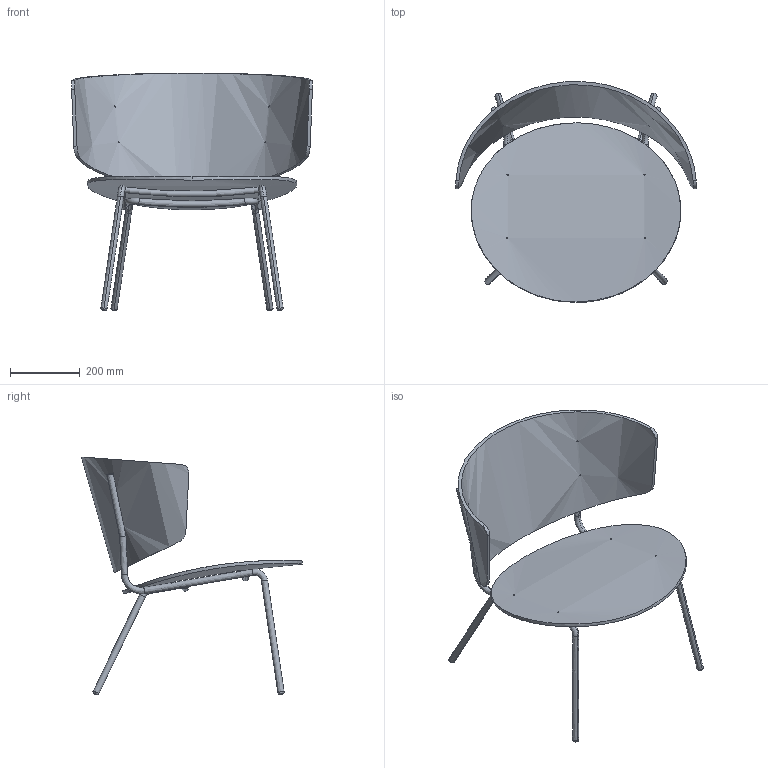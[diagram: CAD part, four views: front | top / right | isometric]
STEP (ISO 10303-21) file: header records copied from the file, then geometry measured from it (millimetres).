
FILE_DESCRIPTION(/* description */ (''),/* implementation_level */ '2;1');
FILE_NAME(/* name */ 'H9G71Z~B',/* time_stamp */ '2018-04-06T15:14:41+02:00',/* author */ (''),/* organization */ (''),/* preprocessor_version */ 'ST-DEVELOPER v15',/* originating_system */ '',/* authorisation */ '');
FILE_SCHEMA (('AUTOMOTIVE_DESIGN'));
Length unit declared in the file: millimetre
Products named in the file (1): Document
Bounding box: 688.8 x 632.03 x 680.61 mm (x, y, z)
Volume: 5600036.8 mm3; surface area: 1286610 mm2
Topology: 6 solids, 6 shells, 102 faces, 226 edges, 136 vertices
Faces by surface type: bspline 102
Entity records: 18385 total; most frequent: CARTESIAN_POINT 15524, B_SPLINE_CURVE_WITH_KNOTS 519, ORIENTED_EDGE 452, PCURVE 452, DEFINITIONAL_REPRESENTATION 452, SURFACE_CURVE 226, EDGE_CURVE 226, VERTEX_POINT 136
